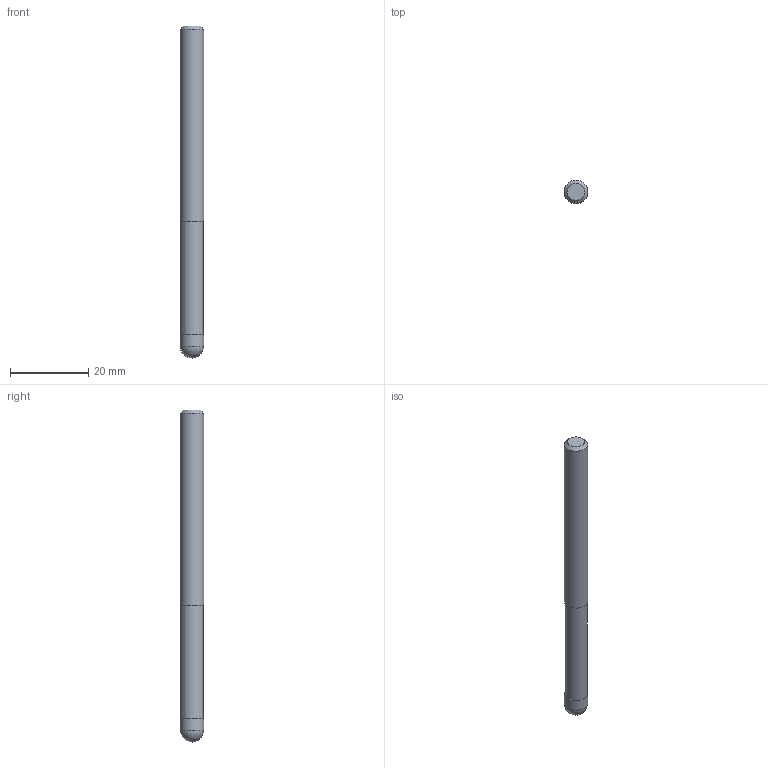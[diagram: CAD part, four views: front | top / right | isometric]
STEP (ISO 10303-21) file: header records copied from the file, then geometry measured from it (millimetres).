
FILE_DESCRIPTION((''),'2;1');
FILE_NAME('C:\Users\nsx150\AppData\Local\Temp\Mastercam 2021\ARV7HD45SN\TEMP.step','2023-06-13T16:39:52',(''),(''),'STEP Write','Mastercam 2021 ... CNC Software, Inc.','');
FILE_SCHEMA(('AUTOMOTIVE_DESIGN'));
Length unit declared in the file: millimetre
Products named in the file (1): None
Bounding box: 6 x 6 x 85 mm (x, y, z)
Volume: 2289.6 mm3; surface area: 1650 mm2
Topology: 2 solids, 2 shells, 9 faces, 13 edges, 8 vertices
Faces by surface type: plane 4, cylinder 3, sphere 1, cone 1
Full cylindrical faces by diameter (mm): 5.7 x1, 6 x2
Entity records: 211 total; most frequent: DIRECTION 36, CARTESIAN_POINT 25, AXIS2_PLACEMENT_3D 18, ORIENTED_EDGE 14, EDGE_LOOP 14, STYLED_ITEM 12, ADVANCED_FACE 9, FACE_BOUND 8
